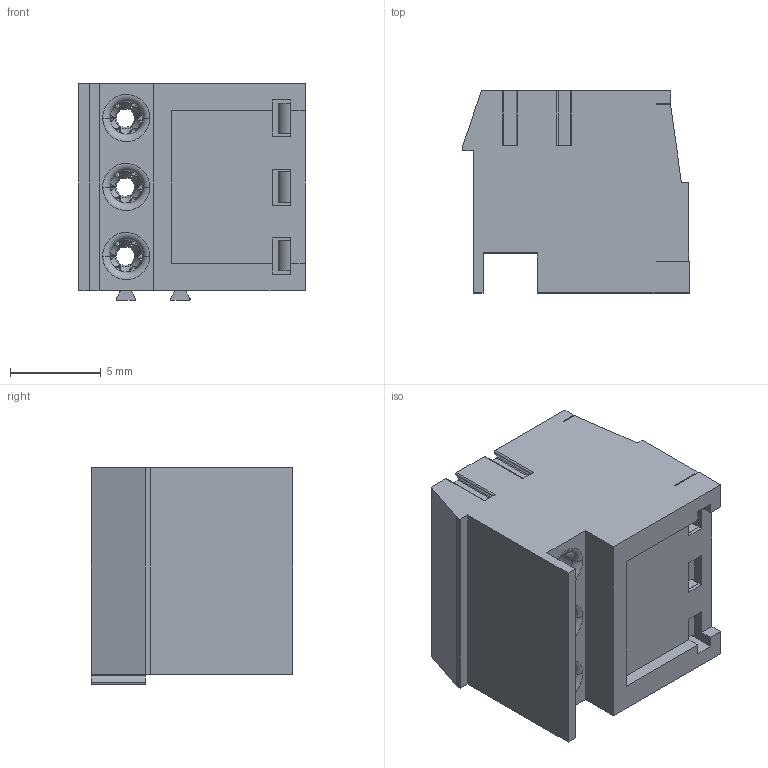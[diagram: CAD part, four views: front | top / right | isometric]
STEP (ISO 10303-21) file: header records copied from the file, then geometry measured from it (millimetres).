
FILE_DESCRIPTION((''),'2;1');
FILE_NAME('3','2019-05-07T',('zhenbing.lai'),(''),'CREO PARAMETRIC BY PTC INC, 2016260','CREO PARAMETRIC BY PTC INC, 2016260','');
FILE_SCHEMA(('CONFIG_CONTROL_DESIGN'));
Length unit declared in the file: millimetre
Products named in the file (1): 3
Bounding box: 12.5 x 11.15 x 11.98 mm (x, y, z)
Volume: 1181.8 mm3; surface area: 1478.3 mm2
Topology: 1 solids, 4 shells, 849 faces, 2464 edges, 1619 vertices
Faces by surface type: plane 388, cylinder 201, cone 103, torus 91, bspline 66
Entity records: 31157 total; most frequent: CARTESIAN_POINT 8731, ORIENTED_EDGE 4928, DIRECTION 4635, EDGE_CURVE 2464, AXIS2_PLACEMENT_3D 1773, VERTEX_POINT 1619, VECTOR 1089, LINE 1089
